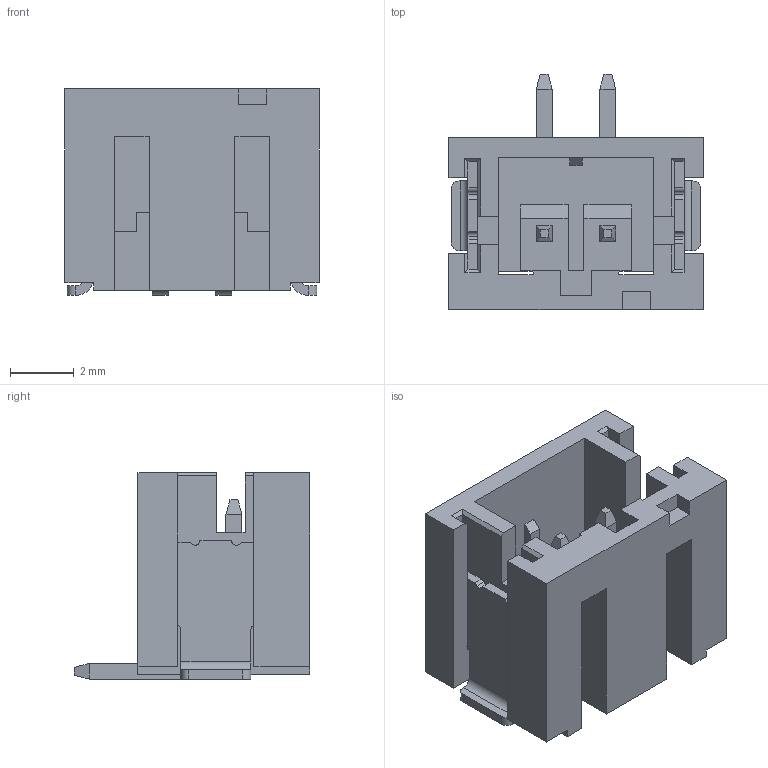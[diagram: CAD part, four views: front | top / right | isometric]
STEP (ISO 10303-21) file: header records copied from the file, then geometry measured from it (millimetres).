
FILE_DESCRIPTION (( 'STEP AP214' ), '1' );
FILE_NAME ('CONN-SMD_PH2.0-1X2PW.STEP', '2026-03-26T05:51:58', ( '' ), ( '' ), 'SwSTEP 2.0', 'SolidWorks 2021', '' );
FILE_SCHEMA (( 'AUTOMOTIVE_DESIGN' ));
Length unit declared in the file: millimetre
Products named in the file (1): CONN-SMD_PH2.0-1X2PW
Bounding box: 8 x 7.4 x 6.5 mm (x, y, z)
Volume: 144.9 mm3; surface area: 500.1 mm2
Topology: 3 solids, 3 shells, 424 faces, 1171 edges, 772 vertices
Faces by surface type: plane 298, bspline 98, cylinder 28
Entity records: 18579 total; most frequent: CARTESIAN_POINT 3674, ORIENTED_EDGE 2342, DIRECTION 1681, EDGE_CURVE 1171, LINE 915, VECTOR 915, VERTEX_POINT 772, EDGE_LOOP 447
